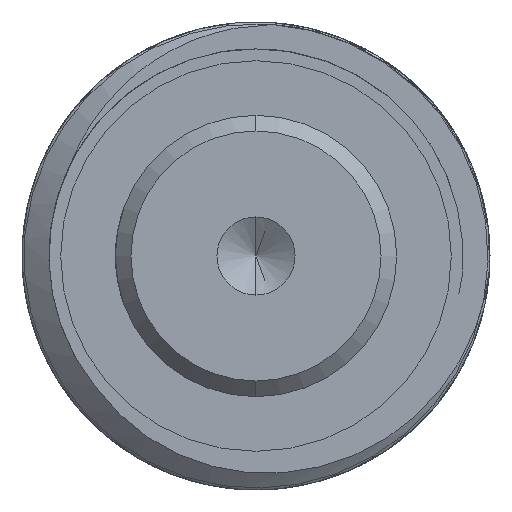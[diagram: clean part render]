
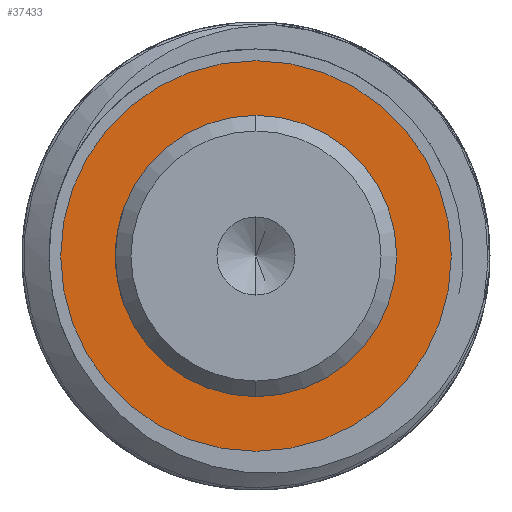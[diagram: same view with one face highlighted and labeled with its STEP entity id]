
A CAD part, left-side view. The second image highlights one B-rep face of the part: STEP entity #37433.
In plain terms, the highlighted planar face has unit normal (-1, 0, 0).
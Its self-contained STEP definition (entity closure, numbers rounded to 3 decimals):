
#4927 = AXIS2_PLACEMENT_3D ( 'NONE', #33802, #56211, #25684 ) ;
#5279 = ORIENTED_EDGE ( 'NONE', *, *, #70913, .F. ) ;
#5888 = AXIS2_PLACEMENT_3D ( 'NONE', #42887, #65283, #65614 ) ;
#6923 = AXIS2_PLACEMENT_3D ( 'NONE', #16839, #68875, #31839 ) ;
#11770 = VERTEX_POINT ( 'NONE', #95933 ) ;
#12019 = CIRCLE ( 'NONE', #5888, 9. ) ;
#16839 = CARTESIAN_POINT ( 'NONE',  ( -177.25, 0., 0. ) ) ;
#17167 = CIRCLE ( 'NONE', #6923, 9. ) ;
#19678 = DIRECTION ( 'NONE',  ( 0., 0., 1. ) ) ;
#19998 = CARTESIAN_POINT ( 'NONE',  ( -177.25, 0., 0. ) ) ;
#20122 = VERTEX_POINT ( 'NONE', #40724 ) ;
#22752 = VERTEX_POINT ( 'NONE', #67601 ) ;
#23996 = PLANE ( 'NONE',  #54117 ) ;
#25684 = DIRECTION ( 'NONE',  ( 0., 0., 1. ) ) ;
#27624 = FACE_BOUND ( 'NONE', #51800, .T. ) ;
#28025 = ORIENTED_EDGE ( 'NONE', *, *, #79335, .T. ) ;
#28427 = AXIS2_PLACEMENT_3D ( 'NONE', #19998, #42460, #19678 ) ;
#31839 = DIRECTION ( 'NONE',  ( 0., 0., 1. ) ) ;
#32459 = DIRECTION ( 'NONE',  ( -1., 0., 0. ) ) ;
#33802 = CARTESIAN_POINT ( 'NONE',  ( -177.25, 0., 0. ) ) ;
#34398 = EDGE_CURVE ( 'NONE', #83068, #11770, #17167, .T. ) ;
#37433 = ADVANCED_FACE ( 'NONE', ( #27624, #81153 ), #23996, .T. ) ;
#39286 = CARTESIAN_POINT ( 'NONE',  ( -177.25, 0., 0. ) ) ;
#39934 = DIRECTION ( 'NONE',  ( 0., 0., 1. ) ) ;
#40724 = CARTESIAN_POINT ( 'NONE',  ( -177.25, 0., -12.5 ) ) ;
#42460 = DIRECTION ( 'NONE',  ( -1., 0., 0. ) ) ;
#42887 = CARTESIAN_POINT ( 'NONE',  ( -177.25, 0., 0. ) ) ;
#49084 = CIRCLE ( 'NONE', #28427, 12.5 ) ;
#51800 = EDGE_LOOP ( 'NONE', ( #5279, #55091 ) ) ;
#54117 = AXIS2_PLACEMENT_3D ( 'NONE', #39286, #32459, #39934 ) ;
#55091 = ORIENTED_EDGE ( 'NONE', *, *, #34398, .F. ) ;
#56211 = DIRECTION ( 'NONE',  ( -1., 0., 0. ) ) ;
#61908 = EDGE_LOOP ( 'NONE', ( #90905, #28025 ) ) ;
#65283 = DIRECTION ( 'NONE',  ( -1., 0., 0. ) ) ;
#65614 = DIRECTION ( 'NONE',  ( 0., 0., 1. ) ) ;
#67601 = CARTESIAN_POINT ( 'NONE',  ( -177.25, 0., 12.5 ) ) ;
#68875 = DIRECTION ( 'NONE',  ( -1., 0., 0. ) ) ;
#70913 = EDGE_CURVE ( 'NONE', #11770, #83068, #12019, .T. ) ;
#75820 = CIRCLE ( 'NONE', #4927, 12.5 ) ;
#79335 = EDGE_CURVE ( 'NONE', #20122, #22752, #49084, .T. ) ;
#81153 = FACE_OUTER_BOUND ( 'NONE', #61908, .T. ) ;
#83068 = VERTEX_POINT ( 'NONE', #91989 ) ;
#83626 = EDGE_CURVE ( 'NONE', #22752, #20122, #75820, .T. ) ;
#90905 = ORIENTED_EDGE ( 'NONE', *, *, #83626, .T. ) ;
#91989 = CARTESIAN_POINT ( 'NONE',  ( -177.25, 0., -9. ) ) ;
#95933 = CARTESIAN_POINT ( 'NONE',  ( -177.25, 0., 9. ) ) ;
